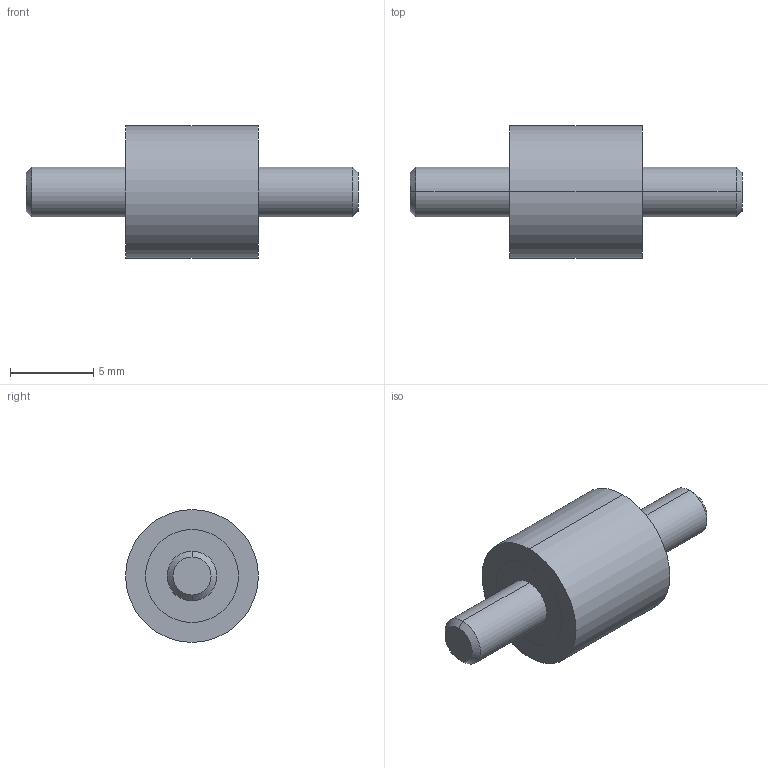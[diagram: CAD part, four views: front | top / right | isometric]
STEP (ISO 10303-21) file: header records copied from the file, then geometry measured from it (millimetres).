
FILE_DESCRIPTION (( 'STEP AP214' ), '1' );
FILE_NAME ('351-8-8-M3-SS-70.step', '2025-07-23T09:44:16', ( '' ), ( '' ), 'SwSTEP 2.0', 'SolidWorks 2022', '' );
FILE_SCHEMA (( 'AUTOMOTIVE_DESIGN' ));
Length unit declared in the file: millimetre
Products named in the file (1): 351-8-8-M3-SS-70
Bounding box: 20 x 8 x 8 mm (x, y, z)
Volume: 485.5 mm3; surface area: 411 mm2
Topology: 1 solids, 1 shells, 20 faces, 38 edges, 24 vertices
Faces by surface type: cylinder 10, plane 6, cone 4
Entity records: 636 total; most frequent: DIRECTION 104, CARTESIAN_POINT 83, ORIENTED_EDGE 76, AXIS2_PLACEMENT_3D 45, EDGE_CURVE 38, VERTEX_POINT 24, CIRCLE 24, EDGE_LOOP 24
